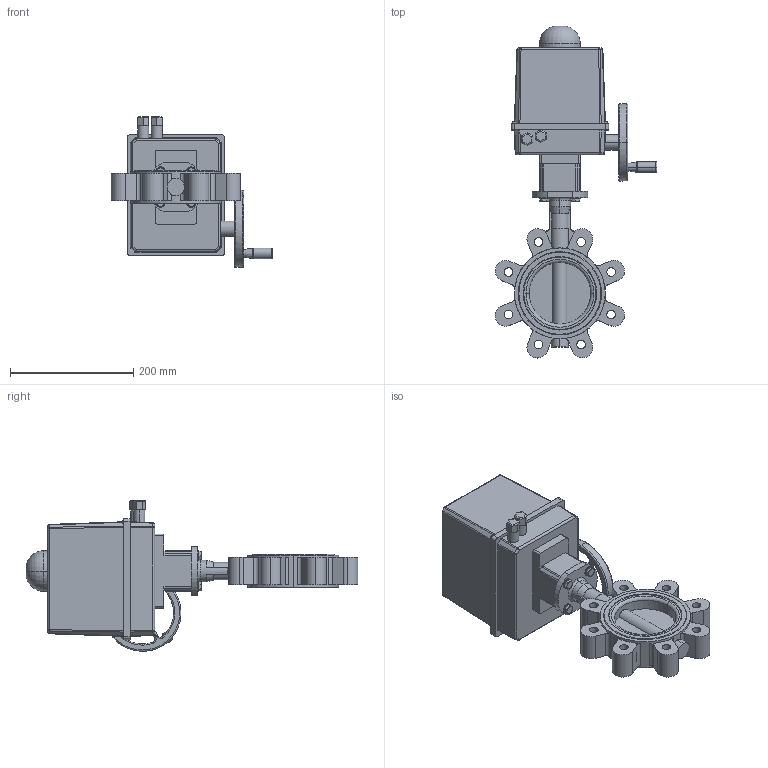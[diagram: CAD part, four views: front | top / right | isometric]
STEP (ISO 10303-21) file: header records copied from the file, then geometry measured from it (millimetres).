
FILE_DESCRIPTION (( 'STEP AP214' ), '1' );
FILE_NAME ('67663.step', '2020-10-26T06:44:28', ( '' ), ( '' ), 'SwSTEP 2.0', 'SolidWorks 2019', '' );
FILE_SCHEMA (( 'AUTOMOTIVE_DESIGN' ));
Length unit declared in the file: millimetre
Products named in the file (6): PSQ 103_PSQ 103-36-24VDC-F07; 6kt-Schr DIN 933_M8x25; TL20-0100_M01; Steckkupplung PSQ 103_PSQ 103 VK-11; 67663; U-Scheibe DIN 125 A_M8
Assembly tree (11 placements, depth 2):
  67663
    TL20-0100_M01
    PSQ 103_PSQ 103-36-24VDC-F07
    Steckkupplung PSQ 103_PSQ 103 VK-11
    6kt-Schr DIN 933_M8x25  x4
    U-Scheibe DIN 125 A_M8  x4
Bounding box: 261.77 x 537.76 x 244 mm (x, y, z)
Volume: 6153316.4 mm3; surface area: 394375.5 mm2
Topology: 11 solids, 11 shells, 847 faces, 2173 edges, 1352 vertices
Faces by surface type: cylinder 363, plane 338, cone 64, torus 60, sphere 16, bspline 6
Entity records: 28770 total; most frequent: CARTESIAN_POINT 5028, DIRECTION 4153, ORIENTED_EDGE 3866, EDGE_CURVE 1933, AXIS2_PLACEMENT_3D 1571, VERTEX_POINT 1232, LINE 1011, VECTOR 1011
